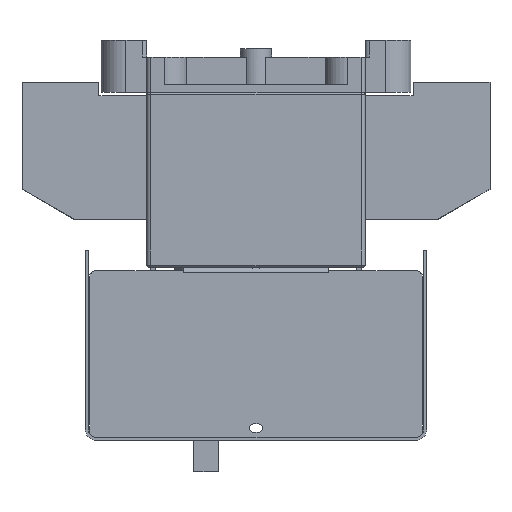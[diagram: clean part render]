
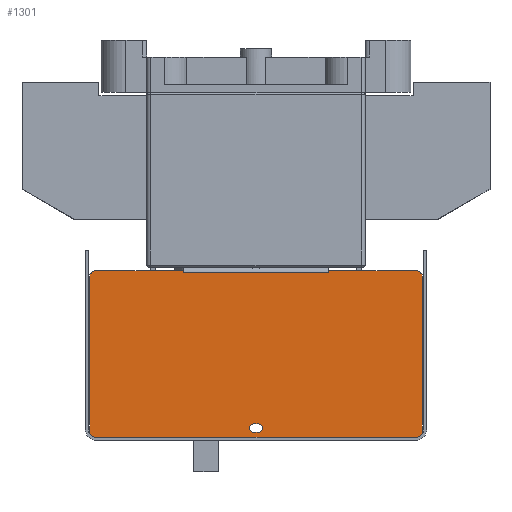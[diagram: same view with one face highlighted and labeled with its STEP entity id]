
A CAD part, left-side view. The second image highlights one B-rep face of the part: STEP entity #1301.
In plain terms, the highlighted planar face has unit normal (-1, 0, 0).
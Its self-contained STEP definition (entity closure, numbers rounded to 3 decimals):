
#170=FACE_BOUND('',#4329,.T.);
#171=FACE_BOUND('',#4330,.T.);
#1301=ADVANCED_FACE('',(#170,#171),#2207,.T.);
#2207=PLANE('',#22660);
#4329=EDGE_LOOP('',(#9071,#9072,#9073,#9074,#9075,#9076,#9077,#9078,#9079,
#9080,#9081,#9082,#9083,#9084));
#4330=EDGE_LOOP('',(#9085,#9086,#9087,#9088));
#5347=CIRCLE('',#22638,2.1);
#5349=CIRCLE('',#22642,2.1);
#5351=CIRCLE('',#22646,3.);
#5353=CIRCLE('',#22649,3.);
#5355=CIRCLE('',#22653,3.);
#5357=CIRCLE('',#22657,3.);
#9071=ORIENTED_EDGE('',*,*,#15567,.F.);
#9072=ORIENTED_EDGE('',*,*,#15568,.T.);
#9073=ORIENTED_EDGE('',*,*,#15569,.T.);
#9074=ORIENTED_EDGE('',*,*,#15570,.T.);
#9075=ORIENTED_EDGE('',*,*,#15571,.F.);
#9076=ORIENTED_EDGE('',*,*,#15559,.T.);
#9077=ORIENTED_EDGE('',*,*,#15564,.T.);
#9078=ORIENTED_EDGE('',*,*,#15547,.T.);
#9079=ORIENTED_EDGE('',*,*,#15550,.T.);
#9080=ORIENTED_EDGE('',*,*,#15525,.T.);
#9081=ORIENTED_EDGE('',*,*,#15553,.T.);
#9082=ORIENTED_EDGE('',*,*,#15556,.T.);
#9083=ORIENTED_EDGE('',*,*,#15558,.T.);
#9084=ORIENTED_EDGE('',*,*,#15533,.T.);
#9085=ORIENTED_EDGE('',*,*,#15537,.T.);
#9086=ORIENTED_EDGE('',*,*,#15541,.T.);
#9087=ORIENTED_EDGE('',*,*,#15544,.T.);
#9088=ORIENTED_EDGE('',*,*,#15566,.T.);
#12578=VERTEX_POINT('',#31719);
#12623=VERTEX_POINT('',#31816);
#12907=VERTEX_POINT('',#32907);
#12908=VERTEX_POINT('',#32909);
#12911=VERTEX_POINT('',#32916);
#12912=VERTEX_POINT('',#32918);
#12914=VERTEX_POINT('',#32924);
#12916=VERTEX_POINT('',#32930);
#12919=VERTEX_POINT('',#32937);
#12920=VERTEX_POINT('',#32939);
#12922=VERTEX_POINT('',#32948);
#12924=VERTEX_POINT('',#32954);
#12925=VERTEX_POINT('',#32961);
#12926=VERTEX_POINT('',#32962);
#12929=VERTEX_POINT('',#32976);
#12930=VERTEX_POINT('',#32978);
#12931=VERTEX_POINT('',#32980);
#12932=VERTEX_POINT('',#32982);
#15525=EDGE_CURVE('',#12578,#12623,#18177,.T.);
#15533=EDGE_CURVE('',#12908,#12907,#18184,.T.);
#15537=EDGE_CURVE('',#12912,#12911,#5347,.T.);
#15541=EDGE_CURVE('',#12911,#12914,#18190,.T.);
#15544=EDGE_CURVE('',#12914,#12916,#5349,.T.);
#15547=EDGE_CURVE('',#12920,#12919,#18194,.T.);
#15550=EDGE_CURVE('',#12919,#12578,#5351,.T.);
#15553=EDGE_CURVE('',#12623,#12922,#5353,.T.);
#15556=EDGE_CURVE('',#12922,#12924,#18199,.T.);
#15558=EDGE_CURVE('',#12924,#12908,#5355,.T.);
#15559=EDGE_CURVE('',#12925,#12926,#18200,.T.);
#15564=EDGE_CURVE('',#12926,#12920,#5357,.T.);
#15566=EDGE_CURVE('',#12916,#12912,#18205,.T.);
#15567=EDGE_CURVE('',#12929,#12907,#18206,.T.);
#15568=EDGE_CURVE('',#12929,#12930,#18207,.T.);
#15569=EDGE_CURVE('',#12930,#12931,#18208,.T.);
#15570=EDGE_CURVE('',#12931,#12932,#18209,.T.);
#15571=EDGE_CURVE('',#12925,#12932,#18210,.T.);
#18177=LINE('',#32890,#20545);
#18184=LINE('',#32908,#20552);
#18190=LINE('',#32925,#20558);
#18194=LINE('',#32938,#20562);
#18199=LINE('',#32955,#20567);
#18200=LINE('',#32960,#20568);
#18205=LINE('',#32973,#20573);
#18206=LINE('',#32975,#20574);
#18207=LINE('',#32977,#20575);
#18208=LINE('',#32979,#20576);
#18209=LINE('',#32981,#20577);
#18210=LINE('',#32983,#20578);
#20545=VECTOR('',#26775,1.);
#20552=VECTOR('',#26788,1.);
#20558=VECTOR('',#26802,1.);
#20562=VECTOR('',#26814,1.);
#20567=VECTOR('',#26833,1.);
#20568=VECTOR('',#26842,1.);
#20573=VECTOR('',#26855,1.);
#20574=VECTOR('',#26858,1.);
#20575=VECTOR('',#26859,1.);
#20576=VECTOR('',#26860,1.);
#20577=VECTOR('',#26861,1.);
#20578=VECTOR('',#26862,1.);
#22638=AXIS2_PLACEMENT_3D('',#32917,#26795,#26796);
#22642=AXIS2_PLACEMENT_3D('',#32931,#26808,#26809);
#22646=AXIS2_PLACEMENT_3D('',#32943,#26820,#26821);
#22649=AXIS2_PLACEMENT_3D('',#32949,#26827,#26828);
#22653=AXIS2_PLACEMENT_3D('',#32958,#26838,#26839);
#22657=AXIS2_PLACEMENT_3D('',#32970,#26850,#26851);
#22660=AXIS2_PLACEMENT_3D('',#32984,#26863,#26864);
#26775=DIRECTION('',(0.,-1.,0.));
#26788=DIRECTION('',(0.,1.,0.));
#26795=DIRECTION('',(1.,0.,0.));
#26796=DIRECTION('',(0.,1.,0.));
#26802=DIRECTION('',(0.,-1.,0.));
#26808=DIRECTION('',(1.,0.,0.));
#26809=DIRECTION('',(0.,1.,0.));
#26814=DIRECTION('',(0.,0.,-1.));
#26820=DIRECTION('',(-1.,0.,0.));
#26821=DIRECTION('',(0.,1.,0.));
#26827=DIRECTION('',(-1.,0.,0.));
#26828=DIRECTION('',(0.,1.,0.));
#26833=DIRECTION('',(0.,0.,1.));
#26838=DIRECTION('',(-1.,0.,0.));
#26839=DIRECTION('',(0.,1.,0.));
#26842=DIRECTION('',(0.,1.,0.));
#26850=DIRECTION('',(-1.,0.,0.));
#26851=DIRECTION('',(0.,1.,0.));
#26855=DIRECTION('',(0.,1.,0.));
#26858=DIRECTION('',(0.,0.,1.));
#26859=DIRECTION('',(0.,1.,0.));
#26860=DIRECTION('',(0.,1.,0.));
#26861=DIRECTION('',(0.,1.,0.));
#26862=DIRECTION('',(0.,0.,-1.));
#26863=DIRECTION('',(-1.,0.,0.));
#26864=DIRECTION('',(0.,-1.,0.));
#31719=CARTESIAN_POINT('',(-189.3,77.,-165.8));
#31816=CARTESIAN_POINT('',(-189.3,-77.,-165.8));
#32890=CARTESIAN_POINT('',(-189.3,77.,-165.8));
#32907=CARTESIAN_POINT('',(-189.3,-35.002,-85.8));
#32908=CARTESIAN_POINT('',(-189.3,-77.,-85.8));
#32909=CARTESIAN_POINT('',(-189.3,-77.,-85.8));
#32916=CARTESIAN_POINT('',(-189.3,1.,-159.3));
#32917=CARTESIAN_POINT('',(-189.3,1.,-161.4));
#32918=CARTESIAN_POINT('',(-189.3,1.,-163.5));
#32924=CARTESIAN_POINT('',(-189.3,-1.,-159.3));
#32925=CARTESIAN_POINT('',(-189.3,1.,-159.3));
#32930=CARTESIAN_POINT('',(-189.3,-1.,-163.5));
#32931=CARTESIAN_POINT('',(-189.3,-1.,-161.4));
#32937=CARTESIAN_POINT('',(-189.3,80.,-162.8));
#32938=CARTESIAN_POINT('',(-189.3,80.,-88.8));
#32939=CARTESIAN_POINT('',(-189.3,80.,-88.8));
#32943=CARTESIAN_POINT('',(-189.3,77.,-162.8));
#32948=CARTESIAN_POINT('',(-189.3,-80.,-162.8));
#32949=CARTESIAN_POINT('',(-189.3,-77.,-162.8));
#32954=CARTESIAN_POINT('',(-189.3,-80.,-88.8));
#32955=CARTESIAN_POINT('',(-189.3,-80.,-162.8));
#32958=CARTESIAN_POINT('',(-189.3,-77.,-88.8));
#32960=CARTESIAN_POINT('',(-189.3,-77.,-85.8));
#32961=CARTESIAN_POINT('',(-189.3,35.002,-85.8));
#32962=CARTESIAN_POINT('',(-189.3,77.,-85.8));
#32970=CARTESIAN_POINT('',(-189.3,77.,-88.8));
#32973=CARTESIAN_POINT('',(-189.3,-1.,-163.5));
#32975=CARTESIAN_POINT('',(-189.3,-35.002,-162.8));
#32976=CARTESIAN_POINT('',(-189.3,-35.002,-86.8));
#32977=CARTESIAN_POINT('',(-189.3,77.,-86.8));
#32978=CARTESIAN_POINT('',(-189.3,-35.,-86.8));
#32979=CARTESIAN_POINT('',(-189.3,50.5,-86.8));
#32980=CARTESIAN_POINT('',(-189.3,35.,-86.8));
#32981=CARTESIAN_POINT('',(-189.3,77.,-86.8));
#32982=CARTESIAN_POINT('',(-189.3,35.002,-86.8));
#32983=CARTESIAN_POINT('',(-189.3,35.002,-162.8));
#32984=CARTESIAN_POINT('',(-189.3,77.,-162.8));
